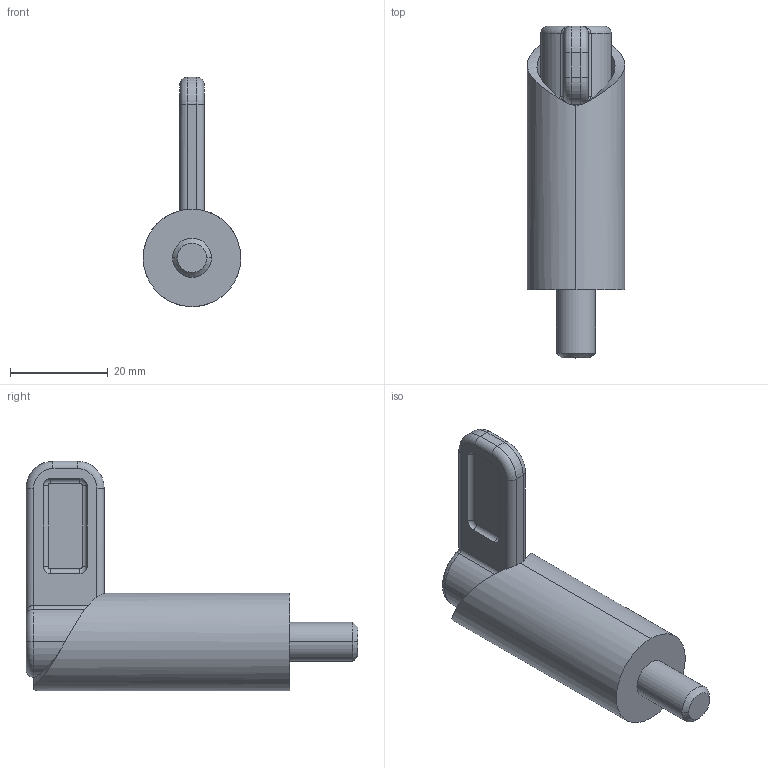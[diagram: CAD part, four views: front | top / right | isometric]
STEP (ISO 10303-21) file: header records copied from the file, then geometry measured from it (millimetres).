
FILE_DESCRIPTION (( 'STEP AP214' ), '1' );
FILE_NAME ('722.1-8-20-RU-ST.step', '2023-09-26T07:22:51', ( '' ), ( '' ), 'SwSTEP 2.0', 'SolidWorks 2022', '' );
FILE_SCHEMA (( 'AUTOMOTIVE_DESIGN' ));
Length unit declared in the file: millimetre
Products named in the file (3): 722.1-8-20-RU-ST; WB722.1_Führung^WB722.1_20-8-ST-R; WB722.1_Bolzen^WB722.1_8-AU
Assembly tree (2 placements, depth 2):
  722.1-8-20-RU-ST
    WB722.1_Führung^WB722.1_20-8-ST-R
    WB722.1_Bolzen^WB722.1_8-AU
Bounding box: 20 x 68 x 47 mm (x, y, z)
Volume: 18022.1 mm3; surface area: 8326.1 mm2
Topology: 2 solids, 2 shells, 78 faces, 185 edges, 114 vertices
Faces by surface type: cylinder 33, plane 21, torus 16, bspline 6, cone 2
Entity records: 2840 total; most frequent: CARTESIAN_POINT 932, DIRECTION 402, ORIENTED_EDGE 366, EDGE_CURVE 183, AXIS2_PLACEMENT_3D 166, VERTEX_POINT 114, CIRCLE 89, EDGE_LOOP 85
